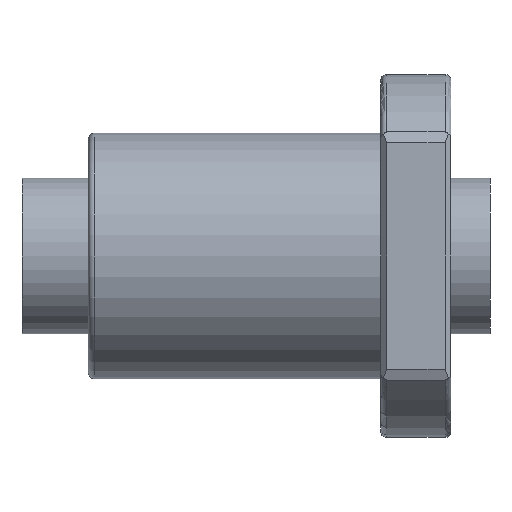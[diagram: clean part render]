
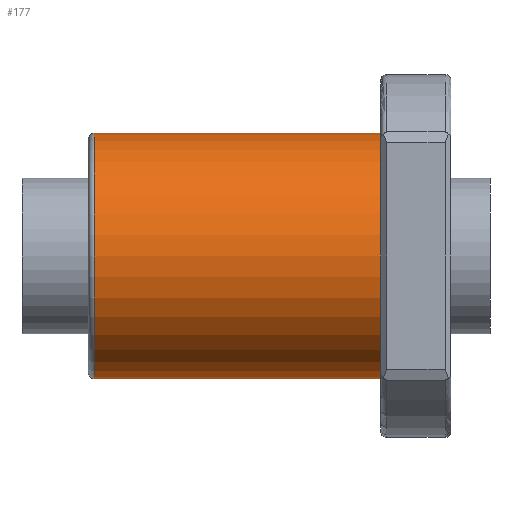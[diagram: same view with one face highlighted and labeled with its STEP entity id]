
A CAD part, left-side view. The second image highlights one B-rep face of the part: STEP entity #177.
In plain terms, the highlighted cylindrical face has radius 31.5 mm (diameter 63 mm), a full revolution.
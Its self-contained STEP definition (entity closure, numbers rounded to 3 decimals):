
#177=ADVANCED_FACE('',(#266,#267),#229,.T.);
#229=CYLINDRICAL_SURFACE('',#908,31.5);
#266=FACE_BOUND('',#364,.T.);
#267=FACE_BOUND('',#365,.T.);
#364=EDGE_LOOP('',(#488));
#365=EDGE_LOOP('',(#489));
#488=ORIENTED_EDGE('',*,*,#755,.T.);
#489=ORIENTED_EDGE('',*,*,#742,.T.);
#663=VERTEX_POINT('',#1289);
#676=VERTEX_POINT('',#1319);
#742=EDGE_CURVE('',#663,#663,#833,.T.);
#755=EDGE_CURVE('',#676,#676,#842,.T.);
#833=CIRCLE('',#894,31.5);
#842=CIRCLE('',#907,31.5);
#894=AXIS2_PLACEMENT_3D('',#1288,#1040,#1041);
#907=AXIS2_PLACEMENT_3D('',#1318,#1070,#1071);
#908=AXIS2_PLACEMENT_3D('',#1320,#1072,#1073);
#1040=DIRECTION('',(0.,1.,0.));
#1041=DIRECTION('',(0.,0.,-1.));
#1070=DIRECTION('',(0.,-1.,0.));
#1071=DIRECTION('',(0.,0.,-1.));
#1072=DIRECTION('',(0.,1.,0.));
#1073=DIRECTION('',(0.,0.,1.));
#1288=CARTESIAN_POINT('',(0.,18.,0.));
#1289=CARTESIAN_POINT('',(0.,18.,-31.5));
#1318=CARTESIAN_POINT('',(0.,91.5,0.));
#1319=CARTESIAN_POINT('',(0.,91.5,-31.5));
#1320=CARTESIAN_POINT('',(0.,0.,0.));
